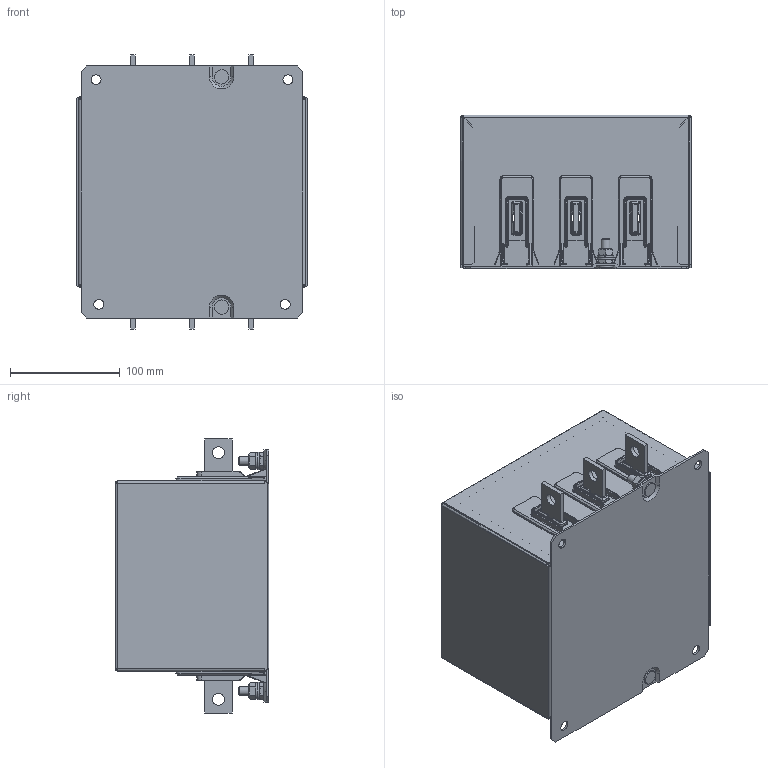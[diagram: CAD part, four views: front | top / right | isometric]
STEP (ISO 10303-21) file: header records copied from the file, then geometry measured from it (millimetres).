
FILE_DESCRIPTION((''),'2;1');
FILE_NAME('P:\Construction\Filter_Marketing\FN\FN3311\FN3311-400-99\FN331X-400-99-CXX-RXX.stp','2015-04-15T14:30:06',('erika.jenzer'),(''),'Autodesk Inventor 2013','Autodesk Inventor 2013','');
FILE_SCHEMA(('AUTOMOTIVE_DESIGN { 1 0 10303 214 1 1 1 1 }'));
Length unit declared in the file: millimetre
Products named in the file (1): FN331X-400-99-CXX-RXX
Bounding box: 210 x 140.1 x 250 mm (x, y, z)
Volume: 328613.4 mm3; surface area: 419640.9 mm2
Topology: 7 solids, 19 shells, 2696 faces, 6823 edges, 4150 vertices
Faces by surface type: plane 1260, cylinder 734, bspline 580, sphere 60, cone 50, torus 12
Full cylindrical faces by diameter (mm): 4.82 x2, 8 x4, 9 x4, 11 x6, 13 x2, 16 x2
Entity records: 94280 total; most frequent: CARTESIAN_POINT 28800, ORIENTED_EDGE 13482, DIRECTION 12376, EDGE_CURVE 6741, VECTOR 4160, LINE 4160, VERTEX_POINT 4146, AXIS2_PLACEMENT_3D 4108
